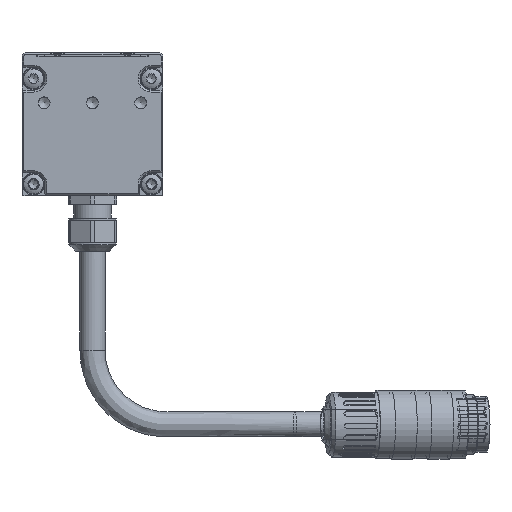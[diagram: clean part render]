
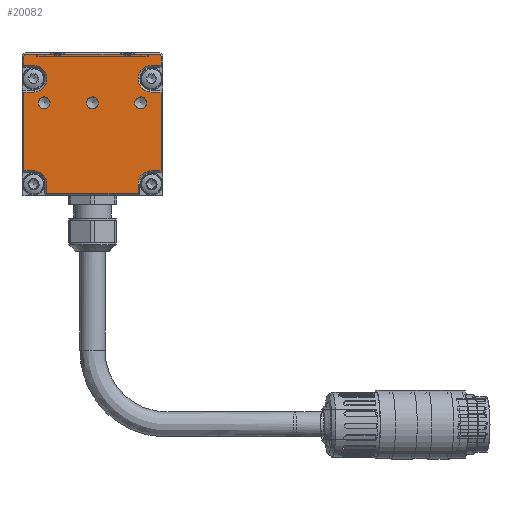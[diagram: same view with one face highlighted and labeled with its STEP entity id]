
A CAD part, left-side view. The second image highlights one B-rep face of the part: STEP entity #20082.
In plain terms, the highlighted planar face has unit normal (-1, 0, 0).
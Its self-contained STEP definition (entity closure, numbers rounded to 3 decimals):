
#880=LINE('',#27913,#1882);
#882=LINE('',#27917,#1884);
#886=LINE('',#27925,#1888);
#889=LINE('',#27931,#1891);
#891=LINE('',#27936,#1893);
#895=LINE('',#27944,#1897);
#897=LINE('',#27948,#1899);
#901=LINE('',#27957,#1903);
#903=LINE('',#27962,#1905);
#906=LINE('',#27970,#1908);
#909=LINE('',#27976,#1911);
#912=LINE('',#27984,#1914);
#916=LINE('',#27992,#1918);
#919=LINE('',#27999,#1921);
#1882=VECTOR('',#23214,1000.);
#1884=VECTOR('',#23218,1000.);
#1888=VECTOR('',#23224,1000.);
#1891=VECTOR('',#23229,1000.);
#1893=VECTOR('',#23235,1000.);
#1897=VECTOR('',#23241,1000.);
#1899=VECTOR('',#23247,1000.);
#1903=VECTOR('',#23257,1000.);
#1905=VECTOR('',#23265,1000.);
#1908=VECTOR('',#23274,1000.);
#1911=VECTOR('',#23283,1000.);
#1914=VECTOR('',#23292,1000.);
#1918=VECTOR('',#23302,1000.);
#1921=VECTOR('',#23311,1000.);
#2682=PLANE('',#21147);
#3923=ORIENTED_EDGE('',*,*,#7674,.T.);
#3924=ORIENTED_EDGE('',*,*,#7675,.T.);
#3925=ORIENTED_EDGE('',*,*,#7676,.T.);
#3926=ORIENTED_EDGE('',*,*,#7648,.T.);
#3927=ORIENTED_EDGE('',*,*,#7645,.T.);
#3928=ORIENTED_EDGE('',*,*,#7639,.T.);
#3929=ORIENTED_EDGE('',*,*,#7656,.T.);
#3930=ORIENTED_EDGE('',*,*,#7654,.T.);
#3931=ORIENTED_EDGE('',*,*,#7652,.T.);
#3932=ORIENTED_EDGE('',*,*,#7630,.T.);
#3933=ORIENTED_EDGE('',*,*,#7663,.T.);
#3934=ORIENTED_EDGE('',*,*,#7661,.T.);
#3935=ORIENTED_EDGE('',*,*,#7659,.T.);
#3936=ORIENTED_EDGE('',*,*,#7628,.T.);
#3937=ORIENTED_EDGE('',*,*,#7673,.F.);
#3938=ORIENTED_EDGE('',*,*,#7643,.T.);
#3939=ORIENTED_EDGE('',*,*,#7672,.F.);
#3940=ORIENTED_EDGE('',*,*,#7637,.T.);
#3941=ORIENTED_EDGE('',*,*,#7671,.T.);
#3942=ORIENTED_EDGE('',*,*,#7669,.T.);
#3943=ORIENTED_EDGE('',*,*,#7667,.T.);
#3944=ORIENTED_EDGE('',*,*,#7634,.T.);
#3945=ORIENTED_EDGE('',*,*,#7650,.T.);
#7628=EDGE_CURVE('',#9566,#9567,#880,.T.);
#7630=EDGE_CURVE('',#9569,#9568,#882,.T.);
#7634=EDGE_CURVE('',#9570,#9571,#886,.T.);
#7637=EDGE_CURVE('',#9572,#9573,#889,.T.);
#7639=EDGE_CURVE('',#9575,#9574,#891,.T.);
#7643=EDGE_CURVE('',#9576,#9577,#895,.T.);
#7645=EDGE_CURVE('',#9578,#9575,#897,.T.);
#7648=EDGE_CURVE('',#9579,#9578,#10697,.T.);
#7650=EDGE_CURVE('',#9571,#9579,#901,.T.);
#7652=EDGE_CURVE('',#9580,#9569,#903,.T.);
#7654=EDGE_CURVE('',#9581,#9580,#10698,.T.);
#7656=EDGE_CURVE('',#9574,#9581,#906,.T.);
#7659=EDGE_CURVE('',#9582,#9566,#909,.T.);
#7661=EDGE_CURVE('',#9583,#9582,#10699,.T.);
#7663=EDGE_CURVE('',#9568,#9583,#912,.T.);
#7667=EDGE_CURVE('',#9584,#9570,#916,.T.);
#7669=EDGE_CURVE('',#9585,#9584,#10700,.T.);
#7671=EDGE_CURVE('',#9573,#9585,#919,.T.);
#7672=EDGE_CURVE('',#9572,#9577,#10701,.T.);
#7673=EDGE_CURVE('',#9576,#9567,#10702,.T.);
#7674=EDGE_CURVE('',#9586,#9586,#10703,.T.);
#7675=EDGE_CURVE('',#9587,#9587,#10704,.T.);
#7676=EDGE_CURVE('',#9588,#9588,#10705,.T.);
#9566=VERTEX_POINT('',#27910);
#9567=VERTEX_POINT('',#27912);
#9568=VERTEX_POINT('',#27916);
#9569=VERTEX_POINT('',#27918);
#9570=VERTEX_POINT('',#27922);
#9571=VERTEX_POINT('',#27924);
#9572=VERTEX_POINT('',#27928);
#9573=VERTEX_POINT('',#27930);
#9574=VERTEX_POINT('',#27935);
#9575=VERTEX_POINT('',#27937);
#9576=VERTEX_POINT('',#27941);
#9577=VERTEX_POINT('',#27943);
#9578=VERTEX_POINT('',#27949);
#9579=VERTEX_POINT('',#27953);
#9580=VERTEX_POINT('',#27963);
#9581=VERTEX_POINT('',#27967);
#9582=VERTEX_POINT('',#27977);
#9583=VERTEX_POINT('',#27981);
#9584=VERTEX_POINT('',#27991);
#9585=VERTEX_POINT('',#27995);
#9586=VERTEX_POINT('',#28007);
#9587=VERTEX_POINT('',#28009);
#9588=VERTEX_POINT('',#28011);
#10697=CIRCLE('',#21122,3.6);
#10698=CIRCLE('',#21128,3.6);
#10699=CIRCLE('',#21134,3.6);
#10700=CIRCLE('',#21140,3.6);
#10701=CIRCLE('',#21144,0.5);
#10702=CIRCLE('',#21146,0.5);
#10703=CIRCLE('',#21148,1.621);
#10704=CIRCLE('',#21149,1.621);
#10705=CIRCLE('',#21150,1.621);
#11388=EDGE_LOOP('',(#3923));
#11389=EDGE_LOOP('',(#3924));
#11390=EDGE_LOOP('',(#3925));
#11391=EDGE_LOOP('',(#3926,#3927,#3928,#3929,#3930,#3931,#3932,#3933,#3934,
#3935,#3936,#3937,#3938,#3939,#3940,#3941,#3942,#3943,#3944,#3945));
#12478=FACE_BOUND('',#11388,.T.);
#12479=FACE_BOUND('',#11389,.T.);
#12480=FACE_BOUND('',#11390,.T.);
#12481=FACE_BOUND('',#11391,.T.);
#20082=ADVANCED_FACE('',(#12478,#12479,#12480,#12481),#2682,.F.);
#21122=AXIS2_PLACEMENT_3D('',#27954,#23252,#23253);
#21128=AXIS2_PLACEMENT_3D('',#27966,#23269,#23270);
#21134=AXIS2_PLACEMENT_3D('',#27980,#23287,#23288);
#21140=AXIS2_PLACEMENT_3D('',#27996,#23306,#23307);
#21144=AXIS2_PLACEMENT_3D('',#28002,#23316,#23317);
#21146=AXIS2_PLACEMENT_3D('',#28004,#23320,#23321);
#21147=AXIS2_PLACEMENT_3D('',#28005,#23322,#23323);
#21148=AXIS2_PLACEMENT_3D('',#28006,#23324,#23325);
#21149=AXIS2_PLACEMENT_3D('',#28008,#23326,#23327);
#21150=AXIS2_PLACEMENT_3D('',#28010,#23328,#23329);
#23214=DIRECTION('',(0.,0.,1.));
#23218=DIRECTION('',(0.,0.,1.));
#23224=DIRECTION('',(0.,0.,-1.));
#23229=DIRECTION('',(0.,0.,-1.));
#23235=DIRECTION('',(0.,-1.,0.));
#23241=DIRECTION('',(0.,1.,0.));
#23247=DIRECTION('',(0.,0.,-1.));
#23252=DIRECTION('',(1.,0.,0.));
#23253=DIRECTION('',(0.,1.,0.));
#23257=DIRECTION('',(0.,-1.,0.));
#23265=DIRECTION('',(0.,-1.,0.));
#23269=DIRECTION('',(1.,0.,0.));
#23270=DIRECTION('',(0.,1.,0.));
#23274=DIRECTION('',(0.,0.,1.));
#23283=DIRECTION('',(0.,-1.,0.));
#23287=DIRECTION('',(1.,0.,0.));
#23288=DIRECTION('',(0.,1.,0.));
#23292=DIRECTION('',(0.,1.,0.));
#23302=DIRECTION('',(0.,1.,0.));
#23306=DIRECTION('',(1.,0.,0.));
#23307=DIRECTION('',(0.,1.,0.));
#23311=DIRECTION('',(0.,-1.,0.));
#23316=DIRECTION('',(1.,0.,0.));
#23317=DIRECTION('',(0.,1.,0.));
#23320=DIRECTION('',(1.,0.,0.));
#23321=DIRECTION('',(0.,1.,0.));
#23322=DIRECTION('',(1.,0.,0.));
#23323=DIRECTION('',(0.,1.,0.));
#23324=DIRECTION('',(1.,0.,0.));
#23325=DIRECTION('',(0.,-1.,0.));
#23326=DIRECTION('',(1.,0.,0.));
#23327=DIRECTION('',(0.,-1.,0.));
#23328=DIRECTION('',(1.,0.,0.));
#23329=DIRECTION('',(0.,-1.,0.));
#27910=CARTESIAN_POINT('',(-1914.998,-18.5,35.119));
#27912=CARTESIAN_POINT('',(-1914.998,-18.5,37.519));
#27913=CARTESIAN_POINT('',(-1914.998,-18.5,0.019));
#27916=CARTESIAN_POINT('',(-1914.998,-18.5,27.919));
#27917=CARTESIAN_POINT('',(-1914.998,-18.5,0.019));
#27918=CARTESIAN_POINT('',(-1914.998,-18.5,6.719));
#27922=CARTESIAN_POINT('',(-1914.998,18.5,27.919));
#27924=CARTESIAN_POINT('',(-1914.998,18.5,6.719));
#27925=CARTESIAN_POINT('',(-1914.998,18.5,0.019));
#27928=CARTESIAN_POINT('',(-1914.998,18.5,37.519));
#27930=CARTESIAN_POINT('',(-1914.998,18.5,35.119));
#27931=CARTESIAN_POINT('',(-1914.998,18.5,0.019));
#27935=CARTESIAN_POINT('',(-1914.998,-12.3,0.519));
#27936=CARTESIAN_POINT('',(-1914.998,-12.3,0.519));
#27937=CARTESIAN_POINT('',(-1914.998,12.3,0.519));
#27941=CARTESIAN_POINT('',(-1914.998,-18.,38.019));
#27943=CARTESIAN_POINT('',(-1914.998,18.,38.019));
#27944=CARTESIAN_POINT('',(-1914.998,-19.,38.019));
#27948=CARTESIAN_POINT('',(-1914.998,12.3,0.019));
#27949=CARTESIAN_POINT('',(-1914.998,12.3,3.119));
#27953=CARTESIAN_POINT('',(-1914.998,15.9,6.719));
#27954=CARTESIAN_POINT('',(-1914.998,15.9,3.119));
#27957=CARTESIAN_POINT('',(-1914.998,-19.,6.719));
#27962=CARTESIAN_POINT('',(-1914.998,-19.,6.719));
#27963=CARTESIAN_POINT('',(-1914.998,-15.9,6.719));
#27966=CARTESIAN_POINT('',(-1914.998,-15.9,3.119));
#27967=CARTESIAN_POINT('',(-1914.998,-12.3,3.119));
#27970=CARTESIAN_POINT('',(-1914.998,-12.3,0.019));
#27976=CARTESIAN_POINT('',(-1914.998,-19.,35.119));
#27977=CARTESIAN_POINT('',(-1914.998,-15.9,35.119));
#27980=CARTESIAN_POINT('',(-1914.998,-15.9,31.519));
#27981=CARTESIAN_POINT('',(-1914.998,-15.9,27.919));
#27984=CARTESIAN_POINT('',(-1914.998,-19.,27.919));
#27991=CARTESIAN_POINT('',(-1914.998,15.9,27.919));
#27992=CARTESIAN_POINT('',(-1914.998,-19.,27.919));
#27995=CARTESIAN_POINT('',(-1914.998,15.9,35.119));
#27996=CARTESIAN_POINT('',(-1914.998,15.9,31.519));
#27999=CARTESIAN_POINT('',(-1914.998,-19.,35.119));
#28002=CARTESIAN_POINT('',(-1914.998,18.,37.519));
#28004=CARTESIAN_POINT('',(-1914.998,-18.,37.519));
#28005=CARTESIAN_POINT('',(-1914.998,-19.,0.019));
#28006=CARTESIAN_POINT('',(-1914.998,13.,25.019));
#28007=CARTESIAN_POINT('',(-1914.998,11.379,25.019));
#28008=CARTESIAN_POINT('',(-1914.998,0.,25.019));
#28009=CARTESIAN_POINT('',(-1914.998,-1.621,25.019));
#28010=CARTESIAN_POINT('',(-1914.998,-13.,25.019));
#28011=CARTESIAN_POINT('',(-1914.998,-14.621,25.019));
